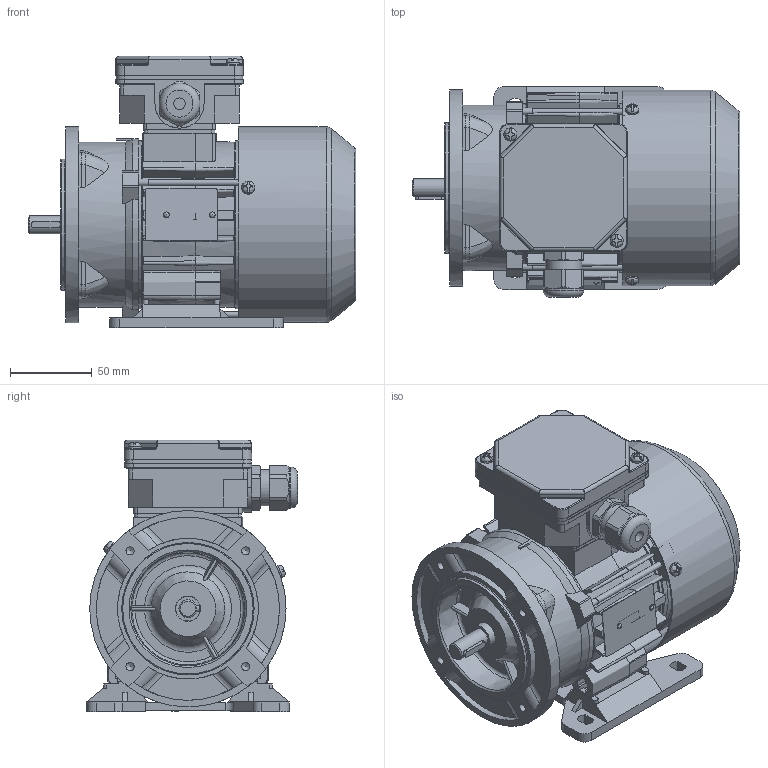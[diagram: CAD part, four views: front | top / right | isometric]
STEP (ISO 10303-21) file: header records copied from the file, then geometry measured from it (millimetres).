
FILE_DESCRIPTION( ( 'Unknown' ), '1' );
FILE_NAME( 'G:/Poczta Tk-1/STP/w.m.63/Sh63/SLh63-A1.stp', 'Unknown', ( 'K. Szlosek' ), ( 'BESEL S.A.' ), 'PSStep 17.0.49', 'Unknown', ' ' );
FILE_SCHEMA( ( 'AUTOMOTIVE_DESIGN { 1 0 10303 214 1 1 1 1 }' ) );
Length unit declared in the file: millimetre
Products named in the file (30): Assem1; K2-0860 Pokrywka skrzynki zaciskowej; K3-9973 Kadłub ze stojanem wykończonym Sh63-B; Wpust A4x4x18; K3-5320 Tarcza łożyskowa P Sg63; Wkręt samogwintujący M4x8; K3-9974 Wał Sh63-B; K2-1769 Przewietrznik Sg63; K4-2320 Uszczelka nr 1 Sh71,80; K4-2820 Uszczelka nr 2 Sh71,80; Wkręt samogwintujący M4x16; Nitokołek A 2x6; K3-11364 osłona przewietrznika Sh63-A; Łożysko 6202; Śruba ściągająca E_M4x80; K2-0859 Podstawa skrzynki 6-cio zaciskowej; Dławnica M20x1,5; Tabliczka znamionowa 32x44; K1-1111 Tarcza kołnierzowa w.m. 63 IMB14_1; K1-1107 Łapa Sg63-.. w. robocza
Assembly tree (46 placements, depth 2):
  Assem1
    K2-0860 Pokrywka skrzynki zaciskowej
    K3-9973 Kadłub ze stojanem wykończonym Sh63-B
    Wpust A4x4x18
    K3-5320 Tarcza łożyskowa P Sg63
    Wkręt samogwintujący M4x8  x3
    K3-9974 Wał Sh63-B
    K2-1769 Przewietrznik Sg63
    K4-2320 Uszczelka nr 1 Sh71,80
    K4-2820 Uszczelka nr 2 Sh71,80
    Wkręt samogwintujący M4x16  x2
    Nitokołek A 2x6  x2
    K3-11364 osłona przewietrznika Sh63-A
    Łożysko 6202  x2
    Łożysko 6202  x2
    Łożysko 6202  x2
    Łożysko 6202  x2
    Łożysko 6202  x2
    Łożysko 6202  x2
    Łożysko 6202  x2
    Łożysko 6202  x2
    Łożysko 6202  x2
    Łożysko 6202  x2
    Łożysko 6202  x2
    Śruba ściągająca E_M4x80  x3
    K2-0859 Podstawa skrzynki 6-cio zaciskowej
    Dławnica M20x1,5
    Tabliczka znamionowa 32x44
    K1-1111 Tarcza kołnierzowa w.m. 63 IMB14_1
    K1-1107 Łapa Sg63-.. w. robocza
Bounding box: 200.3 x 129 x 166 mm (x, y, z)
Volume: 571197.6 mm3; surface area: 365822.3 mm2
Topology: 46 solids, 64 shells, 2045 faces, 5631 edges, 3651 vertices
Faces by surface type: plane 1027, cylinder 602, cone 130, torus 126, bspline 121, sphere 39
Full cylindrical faces by diameter (mm): 2 x2, 2.4 x2, 3.3 x3, 3.7 x10, 4 x8, 4.5 x4, 4.8 x4, 5 x8, 5.8 x4, 7 x4, 8 x6, 11 x1, 12.9 x1, 13.1 x1, 13.5 x1, 15 x4, 15.4 x2, 18.376 x1, 18.38 x1, 19 x2, 19.5 x1, 20 x2, 20.1 x1, 21.52 x4, 22.3 x1, 25 x1, 28 x2, 28.48 x4, 31 x2, 32 x1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
Entity records: 89150 total; most frequent: CARTESIAN_POINT 27004, ORIENTED_EDGE 9796, DIRECTION 9372, EDGE_CURVE 4898, AXIS2_PLACEMENT_3D 3448, VERTEX_POINT 3321, LINE 2476, VECTOR 2476
